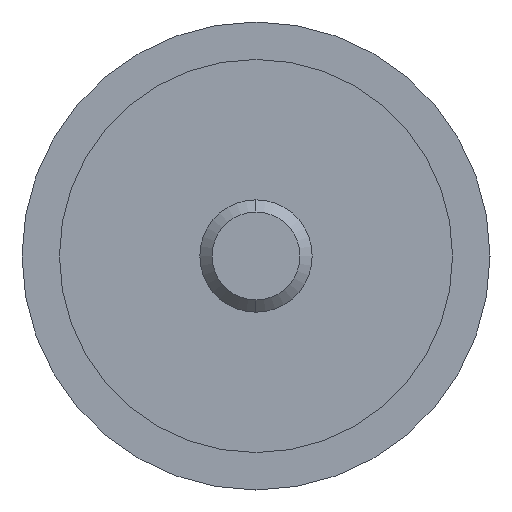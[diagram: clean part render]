
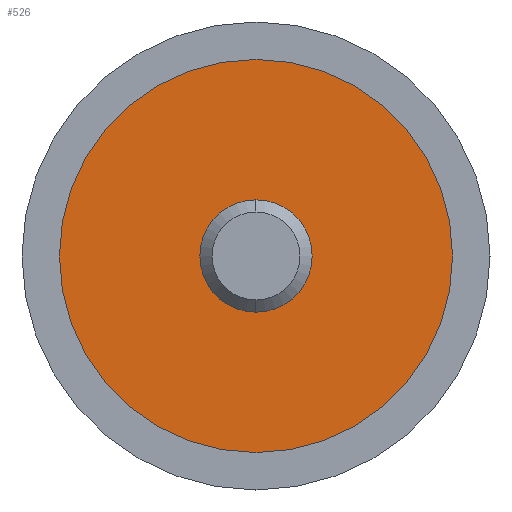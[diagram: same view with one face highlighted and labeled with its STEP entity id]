
A CAD part, left-side view. The second image highlights one B-rep face of the part: STEP entity #526.
In plain terms, the highlighted planar face has unit normal (-1, 0, 0).
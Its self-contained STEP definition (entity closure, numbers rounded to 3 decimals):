
#15 = FACE_OUTER_BOUND ( 'NONE', #562, .T. ) ;
#26 = DIRECTION ( 'NONE',  ( -1., 0., 0. ) ) ;
#80 = ORIENTED_EDGE ( 'NONE', *, *, #326, .F. ) ;
#82 = AXIS2_PLACEMENT_3D ( 'NONE', #178, #391, #239 ) ;
#125 = CARTESIAN_POINT ( 'NONE',  ( -12.49, 0., 3. ) ) ;
#154 = EDGE_CURVE ( 'NONE', #252, #459, #420, .T. ) ;
#163 = FACE_BOUND ( 'NONE', #539, .T. ) ;
#165 = CIRCLE ( 'NONE', #82, 10.5 ) ;
#166 = AXIS2_PLACEMENT_3D ( 'NONE', #589, #635, #545 ) ;
#172 = ORIENTED_EDGE ( 'NONE', *, *, #287, .F. ) ;
#178 = CARTESIAN_POINT ( 'NONE',  ( -12.49, 0., 0. ) ) ;
#218 = EDGE_CURVE ( 'NONE', #459, #252, #165, .T. ) ;
#225 = DIRECTION ( 'NONE',  ( 0., 0., 1. ) ) ;
#237 = CARTESIAN_POINT ( 'NONE',  ( -12.49, 0., -10.5 ) ) ;
#239 = DIRECTION ( 'NONE',  ( 0., 0., 1. ) ) ;
#252 = VERTEX_POINT ( 'NONE', #237 ) ;
#287 = EDGE_CURVE ( 'NONE', #523, #299, #291, .T. ) ;
#291 = CIRCLE ( 'NONE', #386, 3. ) ;
#294 = DIRECTION ( 'NONE',  ( 0., 0., -1. ) ) ;
#299 = VERTEX_POINT ( 'NONE', #125 ) ;
#309 = ORIENTED_EDGE ( 'NONE', *, *, #154, .T. ) ;
#326 = EDGE_CURVE ( 'NONE', #299, #523, #528, .T. ) ;
#372 = PLANE ( 'NONE',  #166 ) ;
#373 = AXIS2_PLACEMENT_3D ( 'NONE', #455, #26, #493 ) ;
#386 = AXIS2_PLACEMENT_3D ( 'NONE', #618, #447, #294 ) ;
#387 = DIRECTION ( 'NONE',  ( -1., 0., 0. ) ) ;
#391 = DIRECTION ( 'NONE',  ( -1., 0., 0. ) ) ;
#420 = CIRCLE ( 'NONE', #482, 10.5 ) ;
#434 = CARTESIAN_POINT ( 'NONE',  ( -12.49, 0., 0. ) ) ;
#447 = DIRECTION ( 'NONE',  ( -1., 0., 0. ) ) ;
#455 = CARTESIAN_POINT ( 'NONE',  ( -12.49, 0., 0. ) ) ;
#459 = VERTEX_POINT ( 'NONE', #532 ) ;
#482 = AXIS2_PLACEMENT_3D ( 'NONE', #434, #387, #225 ) ;
#493 = DIRECTION ( 'NONE',  ( 0., 0., -1. ) ) ;
#498 = ORIENTED_EDGE ( 'NONE', *, *, #218, .T. ) ;
#523 = VERTEX_POINT ( 'NONE', #638 ) ;
#526 = ADVANCED_FACE ( 'NONE', ( #15, #163 ), #372, .F. ) ;
#528 = CIRCLE ( 'NONE', #373, 3. ) ;
#532 = CARTESIAN_POINT ( 'NONE',  ( -12.49, 0., 10.5 ) ) ;
#539 = EDGE_LOOP ( 'NONE', ( #80, #172 ) ) ;
#545 = DIRECTION ( 'NONE',  ( 0., 0., -1. ) ) ;
#562 = EDGE_LOOP ( 'NONE', ( #498, #309 ) ) ;
#589 = CARTESIAN_POINT ( 'NONE',  ( -12.49, 10.5, 0. ) ) ;
#618 = CARTESIAN_POINT ( 'NONE',  ( -12.49, 0., 0. ) ) ;
#635 = DIRECTION ( 'NONE',  ( 1., 0., 0. ) ) ;
#638 = CARTESIAN_POINT ( 'NONE',  ( -12.49, 0., -3. ) ) ;
